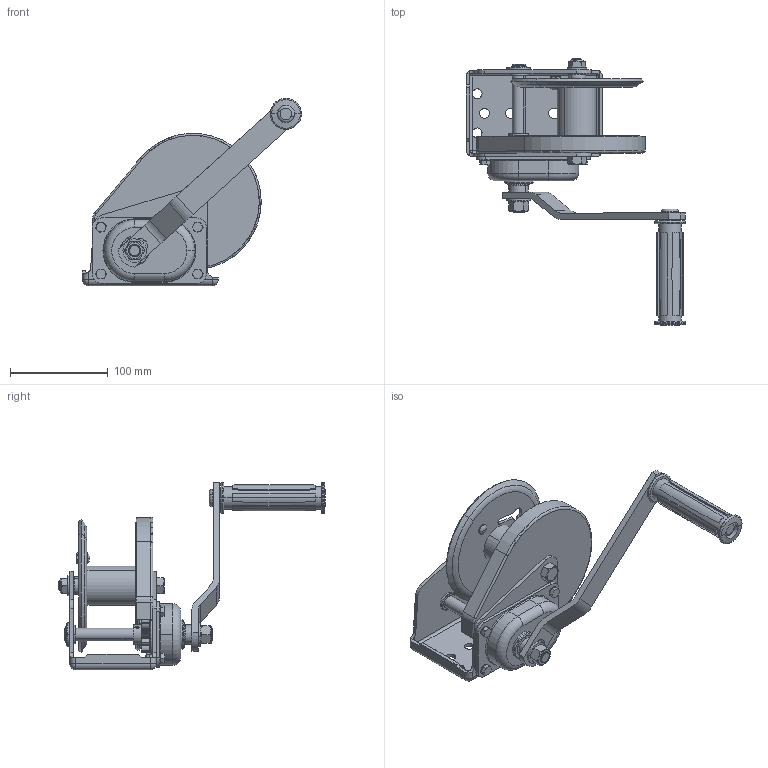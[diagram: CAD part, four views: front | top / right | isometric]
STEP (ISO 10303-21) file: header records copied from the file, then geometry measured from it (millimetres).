
FILE_DESCRIPTION (( 'STEP AP203' ), '1' );
FILE_NAME ('1000bls.STEP', '2018-08-23T01:00:35', ( '' ), ( '' ), 'SwSTEP 2.0', 'SolidWorks 2014', '' );
FILE_SCHEMA (( 'CONFIG_CONTROL_DESIGN' ));
Length unit declared in the file: millimetre
Products named in the file (35): 標え; M6蹟譫; 憔謫欶; M6鞠源蹟隊; 憔謫; 忒梟杶; 粣杶樅; 幗芠喘謫; 憔蛈种; M10詢Ч僅鞠褒蹟邡; M6蹟隊; 6す菜; 蟀裝; 苤喘謫; 標え1; 1000bls; 12縐銅; 嘐隅杶; 憔蛈; 詩佪汋揤啣; M12蹟譫; 藻笠え; 憔謫游杶; 18縐銅; 換雄粣; 喘謫欶; 3 20 粟銅种; M10攝韓蹟譫; 忒梟; 菁釱; 粣杶眣; 10す菜; す菜12; 憔蛈粟銅; M6鞠源蹟隊傻
Assembly tree (44 placements, depth 2):
  1000bls
    菁釱
    憔謫欶
    粣杶樅
    3 20 粟銅种
    M12蹟譫
    換雄粣
    嘐隅杶
    憔謫
    標え
    標え1
    蟀裝
    藻笠え  x2
    す菜12
    忒梟
    忒梟杶
    苤喘謫
    憔謫游杶
    M10詢Ч僅鞠褒蹟邡
    幗芠喘謫
    粣杶眣
    10す菜
    M10攝韓蹟譫
    詩佪汋揤啣
    M6蹟隊
    M6蹟譫  x3
    喘謫欶
    6す菜  x5
    M6鞠源蹟隊  x2
    M6鞠源蹟隊傻  x2
    憔蛈
    憔蛈种
    18縐銅
    12縐銅  x2
    憔蛈粟銅
Bounding box: 224.28 x 273 x 191.95 mm (x, y, z)
Volume: 564377.5 mm3; surface area: 297362.5 mm2
Topology: 45 solids, 45 shells, 1501 faces, 3991 edges, 2599 vertices
Faces by surface type: cylinder 799, plane 366, bspline 157, torus 127, cone 42, sphere 10
Entity records: 61186 total; most frequent: CARTESIAN_POINT 22938, ORIENTED_EDGE 7362, DIRECTION 7189, EDGE_CURVE 3681, AXIS2_PLACEMENT_3D 2868, VERTEX_POINT 2403, CIRCLE 1603, EDGE_LOOP 1510
